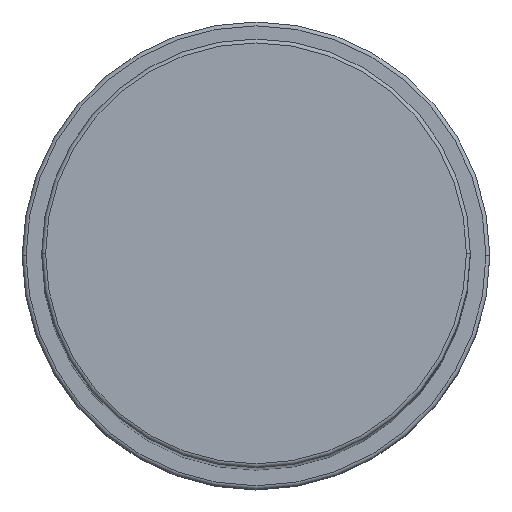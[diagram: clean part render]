
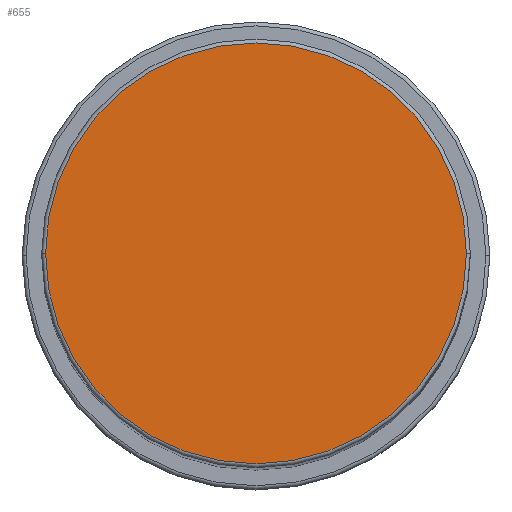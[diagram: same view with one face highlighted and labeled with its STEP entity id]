
A CAD part, top view. The second image highlights one B-rep face of the part: STEP entity #655.
In plain terms, the highlighted planar face has unit normal (0, 0, 1).
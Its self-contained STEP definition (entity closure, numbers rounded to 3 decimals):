
#15 = VERTEX_POINT ( 'NONE', #370 ) ;
#145 = PLANE ( 'NONE',  #900 ) ;
#148 = ORIENTED_EDGE ( 'NONE', *, *, #779, .T. ) ;
#328 = CARTESIAN_POINT ( 'NONE',  ( 0., 0., 193. ) ) ;
#370 = CARTESIAN_POINT ( 'NONE',  ( 27., 0., 193. ) ) ;
#450 = DIRECTION ( 'NONE',  ( 1., 0., 0. ) ) ;
#655 = ADVANCED_FACE ( 'NONE', ( #1042 ), #145, .T. ) ;
#779 = EDGE_CURVE ( 'NONE', #1802, #15, #1284, .T. ) ;
#869 = CARTESIAN_POINT ( 'NONE',  ( 0., 0., 193. ) ) ;
#880 = DIRECTION ( 'NONE',  ( 0., 0., 1. ) ) ;
#900 = AXIS2_PLACEMENT_3D ( 'NONE', #869, #1532, #1406 ) ;
#1042 = FACE_OUTER_BOUND ( 'NONE', #1382, .T. ) ;
#1055 = CIRCLE ( 'NONE', #1412, 27. ) ;
#1164 = CARTESIAN_POINT ( 'NONE',  ( 0., 0., 193. ) ) ;
#1199 = AXIS2_PLACEMENT_3D ( 'NONE', #1164, #880, #1297 ) ;
#1284 = CIRCLE ( 'NONE', #1199, 27. ) ;
#1297 = DIRECTION ( 'NONE',  ( 1., 0., 0. ) ) ;
#1382 = EDGE_LOOP ( 'NONE', ( #1558, #148 ) ) ;
#1406 = DIRECTION ( 'NONE',  ( 1., 0., 0. ) ) ;
#1409 = DIRECTION ( 'NONE',  ( 0., 0., 1. ) ) ;
#1412 = AXIS2_PLACEMENT_3D ( 'NONE', #328, #1409, #450 ) ;
#1532 = DIRECTION ( 'NONE',  ( 0., 0., 1. ) ) ;
#1558 = ORIENTED_EDGE ( 'NONE', *, *, #1798, .T. ) ;
#1674 = CARTESIAN_POINT ( 'NONE',  ( -27., 0., 193. ) ) ;
#1798 = EDGE_CURVE ( 'NONE', #15, #1802, #1055, .T. ) ;
#1802 = VERTEX_POINT ( 'NONE', #1674 ) ;
